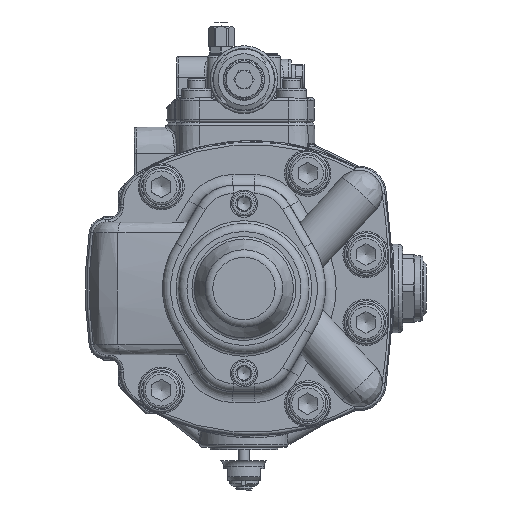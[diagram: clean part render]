
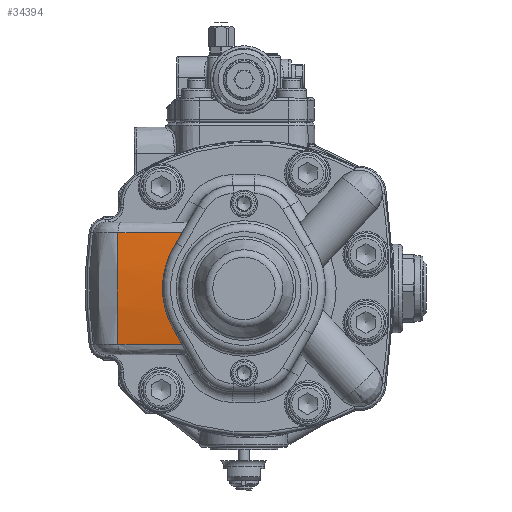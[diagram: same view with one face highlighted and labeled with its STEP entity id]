
A CAD part, front view. The second image highlights one B-rep face of the part: STEP entity #34394.
In plain terms, the highlighted free-form (B-spline) face has degree [1, 2] with [2, 3] control points.
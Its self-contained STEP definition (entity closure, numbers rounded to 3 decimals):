
#20=(
BOUNDED_SURFACE()
B_SPLINE_SURFACE(1,2,((#74195,#74196,#74197),(#74198,#74199,#74200)),
 .UNSPECIFIED.,.F.,.F.,.F.)
B_SPLINE_SURFACE_WITH_KNOTS((2,2),(3,3),(-0.183,-0.022),
(-1.709,-1.432),.UNSPECIFIED.)
GEOMETRIC_REPRESENTATION_ITEM()
RATIONAL_B_SPLINE_SURFACE(((1.,0.99,1.),(1.,0.99,
1.)))
REPRESENTATION_ITEM('')
SURFACE()
);
#108=ELLIPSE('',#37743,346.023,294.047);
#109=ELLIPSE('',#37767,346.023,294.047);
#3012=LINE('',#74201,#4632);
#3013=LINE('',#74205,#4633);
#4632=VECTOR('',#45838,10.);
#4633=VECTOR('',#45841,10.);
#7152=FACE_OUTER_BOUND('',#9255,.T.);
#9255=EDGE_LOOP('',(#28883,#28884,#28885,#28886,#28887,#28888));
#10479=B_SPLINE_CURVE_WITH_KNOTS('',3,(#74161,#74162,#74163,#74164,#74165,
#74166,#74167,#74168,#74169,#74170,#74171,#74172,#74173,#74174),
 .UNSPECIFIED.,.F.,.F.,(4,2,2,2,2,2,4),(6.047,6.785,
7.918,9.05,10.183,11.315,12.054),
 .UNSPECIFIED.);
#12263=CIRCLE('',#37766,299.);
#15166=VERTEX_POINT('',#74134);
#15167=VERTEX_POINT('',#74136);
#15170=VERTEX_POINT('',#74160);
#15173=VERTEX_POINT('',#74188);
#15176=VERTEX_POINT('',#74202);
#15177=VERTEX_POINT('',#74204);
#19818=EDGE_CURVE('',#15166,#15167,#108,.T.);
#19831=EDGE_CURVE('',#15167,#15170,#10479,.T.);
#19838=EDGE_CURVE('',#15173,#15166,#3012,.T.);
#19839=EDGE_CURVE('',#15173,#15176,#12263,.T.);
#19840=EDGE_CURVE('',#15176,#15177,#3013,.T.);
#19841=EDGE_CURVE('',#15170,#15177,#109,.T.);
#28883=ORIENTED_EDGE('',*,*,#19818,.F.);
#28884=ORIENTED_EDGE('',*,*,#19838,.F.);
#28885=ORIENTED_EDGE('',*,*,#19839,.T.);
#28886=ORIENTED_EDGE('',*,*,#19840,.T.);
#28887=ORIENTED_EDGE('',*,*,#19841,.F.);
#28888=ORIENTED_EDGE('',*,*,#19831,.F.);
#34394=ADVANCED_FACE('',(#7152),#20,.F.);
#37743=AXIS2_PLACEMENT_3D('',#74137,#45788,#45789);
#37766=AXIS2_PLACEMENT_3D('',#74203,#45839,#45840);
#37767=AXIS2_PLACEMENT_3D('',#74206,#45842,#45843);
#45788=DIRECTION('center_axis',(0.866,0.,-0.5));
#45789=DIRECTION('ref_axis',(-0.496,0.126,-0.859));
#45838=DIRECTION('',(0.998,-0.07,0.));
#45839=DIRECTION('center_axis',(0.968,-0.251,0.));
#45840=DIRECTION('ref_axis',(-0.248,-0.959,0.138));
#45841=DIRECTION('',(0.998,-0.07,0.));
#45842=DIRECTION('center_axis',(0.866,0.,0.5));
#45843=DIRECTION('ref_axis',(0.496,-0.126,-0.859));
#74134=CARTESIAN_POINT('',(-41.91,-141.429,42.241));
#74136=CARTESIAN_POINT('',(-48.401,-142.305,31.));
#74137=CARTESIAN_POINT('Origin',(-65.721,152.12,1.));
#74160=CARTESIAN_POINT('',(-48.401,-142.305,-29.));
#74161=CARTESIAN_POINT('Ctrl Pts',(-48.401,-142.305,
31.));
#74162=CARTESIAN_POINT('Ctrl Pts',(-49.699,-142.438,
28.751));
#74163=CARTESIAN_POINT('Ctrl Pts',(-50.858,-142.564,
26.405));
#74164=CARTESIAN_POINT('Ctrl Pts',(-53.393,-142.851,
20.295));
#74165=CARTESIAN_POINT('Ctrl Pts',(-54.554,-142.994,
16.438));
#74166=CARTESIAN_POINT('Ctrl Pts',(-56.077,-143.183,
8.677));
#74167=CARTESIAN_POINT('Ctrl Pts',(-56.439,-143.23,
4.775));
#74168=CARTESIAN_POINT('Ctrl Pts',(-56.439,-143.23,
-2.775));
#74169=CARTESIAN_POINT('Ctrl Pts',(-56.077,-143.183,
-6.677));
#74170=CARTESIAN_POINT('Ctrl Pts',(-54.554,-142.994,
-14.438));
#74171=CARTESIAN_POINT('Ctrl Pts',(-53.393,-142.851,
-18.295));
#74172=CARTESIAN_POINT('Ctrl Pts',(-50.858,-142.564,
-24.405));
#74173=CARTESIAN_POINT('Ctrl Pts',(-49.699,-142.438,
-26.751));
#74174=CARTESIAN_POINT('Ctrl Pts',(-48.401,-142.305,
-29.));
#74188=CARTESIAN_POINT('',(-89.312,-138.114,42.241));
#74195=CARTESIAN_POINT('Ctrl Pts',(-90.004,-138.066,
42.241));
#74196=CARTESIAN_POINT('Ctrl Pts',(-90.398,-143.699,
1.));
#74197=CARTESIAN_POINT('Ctrl Pts',(-90.004,-138.066,
-40.241));
#74198=CARTESIAN_POINT('Ctrl Pts',(-41.91,-141.429,
42.241));
#74199=CARTESIAN_POINT('Ctrl Pts',(-42.304,-147.062,
1.));
#74200=CARTESIAN_POINT('Ctrl Pts',(-41.91,-141.429,
-40.241));
#74201=CARTESIAN_POINT('',(-89.312,-138.114,42.241));
#74202=CARTESIAN_POINT('',(-89.312,-138.114,-40.241));
#74203=CARTESIAN_POINT('Origin',(-15.109,148.58,1.));
#74204=CARTESIAN_POINT('',(-41.91,-141.429,-40.241));
#74205=CARTESIAN_POINT('',(-89.312,-138.114,-40.241));
#74206=CARTESIAN_POINT('Origin',(-65.721,152.12,1.));
